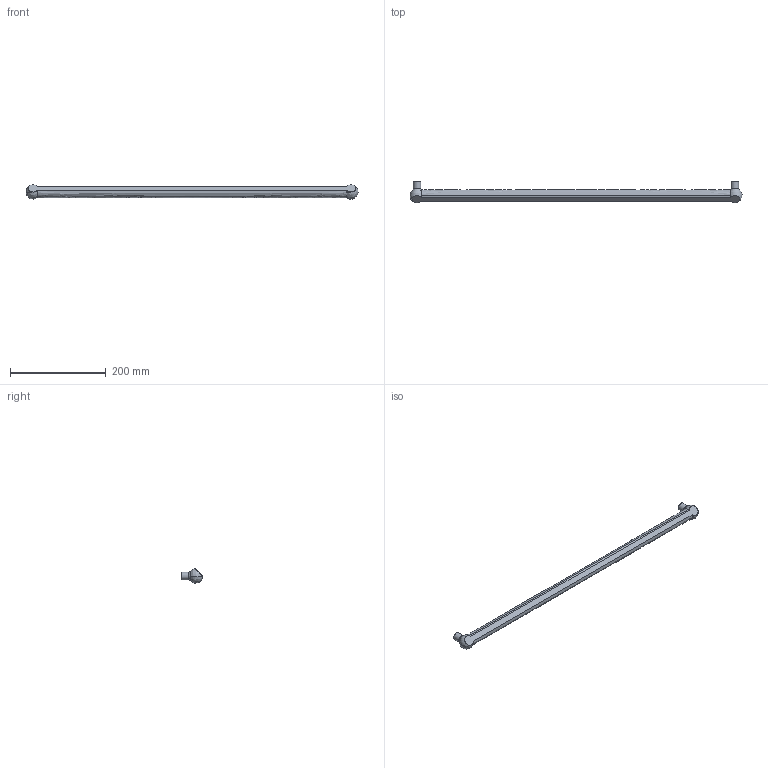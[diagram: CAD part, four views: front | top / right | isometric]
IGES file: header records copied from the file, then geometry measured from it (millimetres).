
Start section: Data from Parasolid IGES Translator 15.0.47, Copyright(c) 2006 Siemens P LM Software. All Rights Reserved.
Global section: file name: 9105772.igs; native system:  By UGS Corp.; preprocessor: XPlus GENERIC/IGES 3.0; author: Noname; organization: Noname; date: 20140122.155750; units: millimetre
Bounding box: 694.88 x 45 x 29.99 mm (x, y, z)
Surface area: 54777.2 mm2 (no closed solid volume)
Topology: 0 solids, 0 shells, 17 faces, 78 edges, 68 vertices
Faces by surface type: revolution 12, extrusion 5
